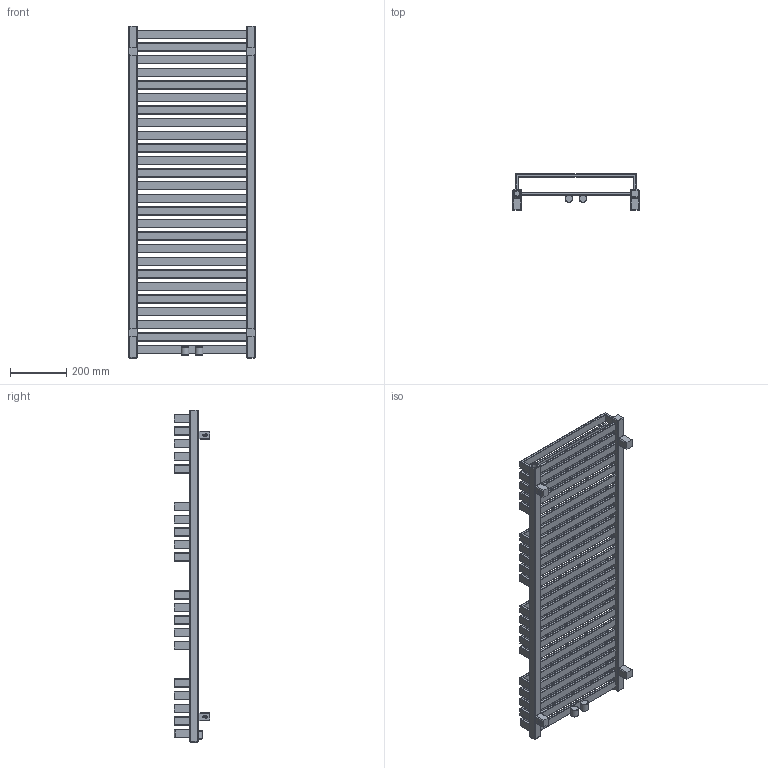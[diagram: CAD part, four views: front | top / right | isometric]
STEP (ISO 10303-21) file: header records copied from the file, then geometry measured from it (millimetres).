
FILE_DESCRIPTION((''),'2;1');
FILE_NAME('Z:\R\G\P\RGP093 - Grzejnik Quadrus Bold 2012\Work\Inventor\Marketing\Modele AutoCAD\QBA-1185-450 Z8.stp','2012-07-02T07:50:25',('KurKa'),(''),'Autodesk Inventor 2012','Autodesk Inventor 2012','');
FILE_SCHEMA(('AUTOMOTIVE_DESIGN { 1 0 10303 214 1 1 1 1 }'));
Length unit declared in the file: millimetre
Products named in the file (3): QBA-1185-450 Z8; MMT42_marketing
Assembly tree (5 placements, depth 2):
  QBA-1185-450 Z8
    QBA-1185-450 Z8
    MMT42_marketing  x4
Bounding box: 456 x 127 x 1185 mm (x, y, z)
Volume: 8397224.5 mm3; surface area: 1875550.7 mm2
Topology: 5 solids, 5 shells, 870 faces, 2276 edges, 1430 vertices
Faces by surface type: cylinder 426, plane 384, cone 30, sphere 16, torus 10, bspline 4
Full cylindrical faces by diameter (mm): 4.509 x4, 12 x4, 18.631 x4, 28 x2
Entity records: 23123 total; most frequent: CARTESIAN_POINT 4307, DIRECTION 4030, ORIENTED_EDGE 3834, EDGE_CURVE 1917, AXIS2_PLACEMENT_3D 1386, VECTOR 1258, LINE 1258, VERTEX_POINT 1211
